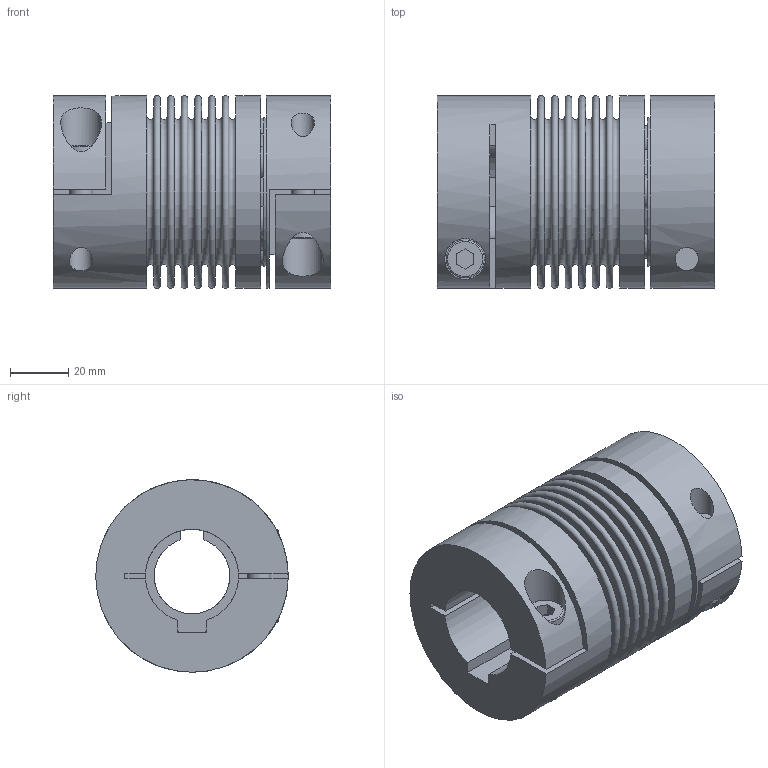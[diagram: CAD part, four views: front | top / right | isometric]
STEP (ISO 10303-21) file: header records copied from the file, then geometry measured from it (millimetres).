
FILE_DESCRIPTION(/* description */ ('STEP AP214'),/* implementation_level */ '2;1');
FILE_NAME(/* name */ 'C:\Diequa Files\DieQua Coupling\BCB\STP\BCB.60.95.#.#.stp',/* time_stamp */ '2018-11-26T10:48:11-06:00',/* author */ ('DiequaCAD'),/* organization */ (''),/* preprocessor_version */ 'ST-DEVELOPER v17.2',/* originating_system */ 'Autodesk Inventor 2019',/* authorisation */ ' ');
FILE_SCHEMA (('AUTOMOTIVE_DESIGN { 1 0 10303 214 3 1 1 }'));
Length unit declared in the file: millimetre
Products named in the file (3): BK5_60_95_32_PFN_26_PFN_80; 2018_11_09__17-56-22-287; 2018_11_09__17-56-22-287_1
Assembly tree (2 placements, depth 2):
  BK5_60_95_32_PFN_26_PFN_80
    2018_11_09__17-56-22-287
    2018_11_09__17-56-22-287_1
Bounding box: 95 x 66 x 66 mm (x, y, z)
Volume: 193758.6 mm3; surface area: 72580.2 mm2
Topology: 2 solids, 2 shells, 132 faces, 333 edges, 229 vertices
Faces by surface type: plane 71, cone 24, cylinder 22, torus 15
Full cylindrical faces by diameter (mm): 8 x4, 13 x2, 14 x2, 48 x1, 51 x1, 58 x1, 66 x3
Entity records: 4434 total; most frequent: CARTESIAN_POINT 972, DIRECTION 755, ORIENTED_EDGE 666, EDGE_CURVE 333, AXIS2_PLACEMENT_3D 316, VERTEX_POINT 229, CIRCLE 179, EDGE_LOOP 164
